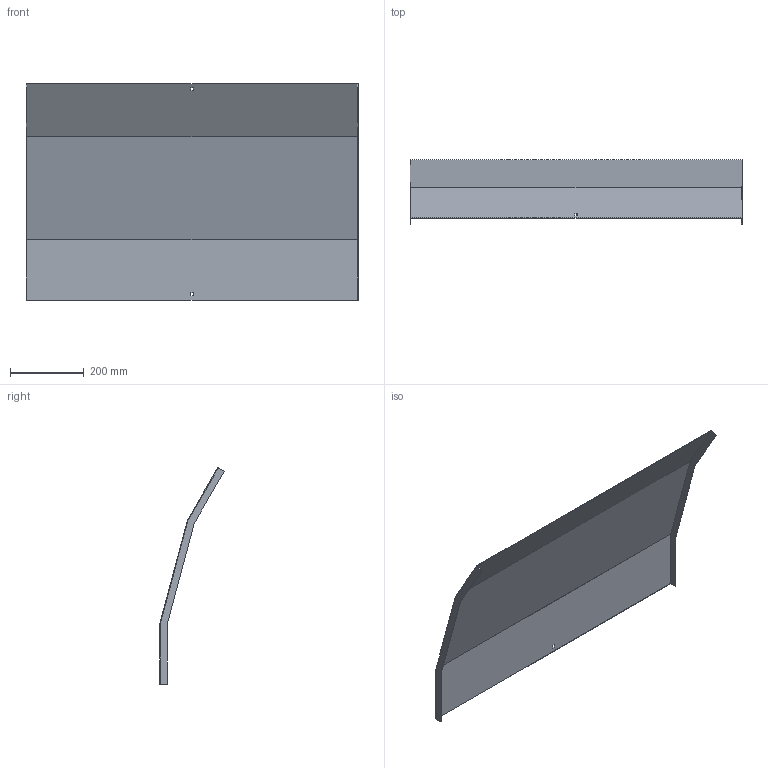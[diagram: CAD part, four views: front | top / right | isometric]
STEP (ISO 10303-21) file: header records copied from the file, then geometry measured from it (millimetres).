
FILE_DESCRIPTION (( 'STEP AP214' ), '1' );
FILE_NAME ('35N5D900.step', '2025-02-21T10:29:26', ( '' ), ( '' ), 'SwSTEP 2.0', 'SolidWorks 2023', '' );
FILE_SCHEMA (( 'AUTOMOTIVE_DESIGN' ));
Length unit declared in the file: millimetre
Products named in the file (1): 35N5D900
Bounding box: 903 x 175.26 x 589.45 mm (x, y, z)
Volume: 875335.7 mm3; surface area: 1171861.5 mm2
Topology: 1 solids, 1 shells, 26 faces, 72 edges, 48 vertices
Faces by surface type: plane 26
Entity records: 847 total; most frequent: CARTESIAN_POINT 147, ORIENTED_EDGE 144, DIRECTION 126, EDGE_CURVE 72, VECTOR 72, LINE 72, VERTEX_POINT 48, EDGE_LOOP 30
